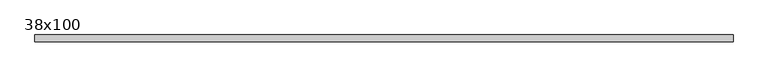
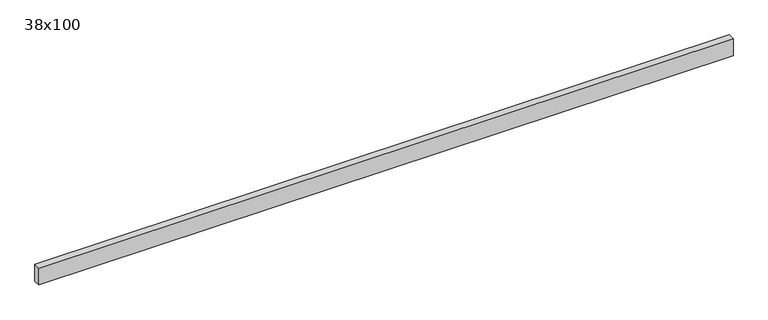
"""IFC4 building model written with IfcOpenShell, lengths in millimetres: beam geometry, Poutre - Bois de construction de dimensions courantes : 38x100."""

import ifcopenshell
import ifcopenshell.guid

model = None  # the IFC model being written
_history = None  # IfcOwnerHistory: only IFC2X3 demands one
_inside = {}  # id of a spatial element -> (the spatial element, [elements in it])
_under = {}  # id of a project, library or spatial element -> (it, [spatial elements below it])
_declared = {}  # id of a project -> (the project, [libraries it declares])
_typed = {}  # id of a type object -> (the type object, [elements of that type])
_made_of = {}  # id of a material, layer set ... -> (it, [elements and type objects made of it])


def new_model(schema):
    """Start an empty IFC model of exactly this schema.

    Asked for "IFC4X3", IfcOpenShell would pick the latest addendum, in which some entities
    have other attributes; the version numbers below select the first issue.
    IFC2X3 requires an IfcOwnerHistory on every rooted entity: one is made here for all.
    """
    global model, _history
    if schema == "IFC4X3":
        model = ifcopenshell.file(schema_version=(4, 3, 0, 0))
    else:
        model = ifcopenshell.file(schema=schema)
    _inside.clear()
    _under.clear()
    _declared.clear()
    _typed.clear()
    _made_of.clear()
    _history = None
    if model.schema == "IFC2X3":
        org = make("IfcOrganization", Name="unknown")
        user = make(
            "IfcPersonAndOrganization",
            ThePerson=make("IfcPerson", FamilyName="unknown"),
            TheOrganization=org,
        )
        app = make(
            "IfcApplication",
            ApplicationDeveloper=org,
            Version="unknown",
            ApplicationFullName="unknown",
            ApplicationIdentifier="unknown",
        )
        _history = make(
            "IfcOwnerHistory",
            OwningUser=user,
            OwningApplication=app,
            ChangeAction="ADDED",
            CreationDate=0,
        )
    return model


def make(cls, **values):
    """One entity of the class cls with the attributes given. An attribute that is None is left unset."""
    return model.create_entity(
        cls, **{name: value for name, value in values.items() if value is not None}
    )


def rooted(cls, **values):
    """An entity with a GlobalId (a new one), such as an element, a storey or a relation."""
    return make(cls, GlobalId=ifcopenshell.guid.new(), OwnerHistory=_history, **values)


def si_unit(unit_type, name, prefix=None):
    """IfcSIUnit, for example si_unit("LENGTHUNIT", "METRE", prefix="MILLI")."""
    return make("IfcSIUnit", UnitType=unit_type, Prefix=prefix, Name=name)


def assignment(units):
    """IfcUnitAssignment: the units of a project."""
    return None if units is None else make("IfcUnitAssignment", Units=units)


def point(xyz):
    """IfcCartesianPoint."""
    return None if xyz is None else make("IfcCartesianPoint", Coordinates=xyz)


def direction(xyz):
    """IfcDirection."""
    return None if xyz is None else make("IfcDirection", DirectionRatios=xyz)


def frame(location, z_axis=None, x_axis=None):
    """IfcAxis2Placement3D, a coordinate frame: its origin and axes. An axis left out is left unset."""
    return make(
        "IfcAxis2Placement3D",
        Location=point(location),
        Axis=direction(z_axis),
        RefDirection=direction(x_axis),
    )


def origin():
    """The frame at (0, 0, 0) with its axes left unset."""
    return frame((0.0, 0.0, 0.0))


def place(relative_to, where):
    """IfcLocalPlacement: puts the frame where relative to a parent placement (None: the world)."""
    return make(
        "IfcLocalPlacement", PlacementRelTo=relative_to, RelativePlacement=where
    )


def context(
    kind, dimensions, precision=None, world=None, true_north=None, identifier=None
):
    """IfcGeometricRepresentationContext, for example the 3D "Model" context."""
    return make(
        "IfcGeometricRepresentationContext",
        ContextIdentifier=identifier,
        ContextType=kind,
        CoordinateSpaceDimension=dimensions,
        Precision=precision,
        WorldCoordinateSystem=world,
        TrueNorth=true_north,
    )


def project(units=None, contexts=None):
    """IfcProject with its units and contexts."""
    return rooted(
        "IfcProject",
        Name="project",
        RepresentationContexts=contexts,
        UnitsInContext=assignment(units),
    )


def spatial(cls, under=None, at=None, **own):
    """A site, building, storey or space (cls), placed at a placement, below another one or the project."""
    s = rooted(cls, ObjectPlacement=at, **own)
    if under is not None:
        _under.setdefault(under.id(), (under, []))[1].append(s)
    return s


def polyline(points):
    """IfcPolyline through the points."""
    return make("IfcPolyline", Points=[point(p) for p in points])


def outline(outer, holes=None, kind="AREA"):
    """IfcArbitraryClosedProfileDef: a profile drawn as a closed curve; with holes, ...WithVoids."""
    if holes is None:
        return make("IfcArbitraryClosedProfileDef", ProfileType=kind, OuterCurve=outer)
    return make(
        "IfcArbitraryProfileDefWithVoids",
        ProfileType=kind,
        OuterCurve=outer,
        InnerCurves=holes,
    )


def extrude(swept, where, along, depth):
    """IfcExtrudedAreaSolid: the profile swept, set in the frame where, extruded along a direction by depth."""
    return make(
        "IfcExtrudedAreaSolid",
        SweptArea=swept,
        Position=where,
        ExtrudedDirection=direction(along),
        Depth=depth,
    )


def shape(context_of_items, identifier, shape_type, items):
    """IfcShapeRepresentation: the items that make up one representation, for example the "Body"."""
    return make(
        "IfcShapeRepresentation",
        ContextOfItems=context_of_items,
        RepresentationIdentifier=identifier,
        RepresentationType=shape_type,
        Items=items,
    )


def source(mapping_origin, context_of_items, identifier, shape_type, items):
    """IfcRepresentationMap: a shape defined once, which mapped items show again and again."""
    return make(
        "IfcRepresentationMap",
        MappingOrigin=mapping_origin,
        MappedRepresentation=shape(context_of_items, identifier, shape_type, items),
    )


def transform(
    local_origin,
    x_axis=None,
    y_axis=None,
    z_axis=None,
    scale=None,
    scale2=None,
    scale3=None,
    uniform=True,
):
    """IfcCartesianTransformationOperator3D, or its non-uniform kind. x_axis, y_axis, z_axis: its Axis1, 2, 3."""
    if uniform:
        return make(
            "IfcCartesianTransformationOperator3D",
            Axis1=direction(x_axis),
            Axis2=direction(y_axis),
            LocalOrigin=point(local_origin),
            Scale=scale,
            Axis3=direction(z_axis),
        )
    return make(
        "IfcCartesianTransformationOperator3DnonUniform",
        Axis1=direction(x_axis),
        Axis2=direction(y_axis),
        LocalOrigin=point(local_origin),
        Scale=scale,
        Axis3=direction(z_axis),
        Scale2=scale2,
        Scale3=scale3,
    )


def mapped(mapping_source, mapping_target):
    """IfcMappedItem: shows the shape of a source again, moved by a transform."""
    return make(
        "IfcMappedItem", MappingSource=mapping_source, MappingTarget=mapping_target
    )


def made_of(thing, what):
    """Note that an element or type object is made of a material, layer set ...; save() writes the relation."""
    if what is not None:
        _made_of.setdefault(what.id(), (what, []))[1].append(thing)
    return thing


def element(
    cls,
    number,
    at=None,
    inside=None,
    cuts=None,
    type_object=None,
    material=None,
    context=None,
    identifier="Body",
    shape_type=None,
    held_by="IfcProductDefinitionShape",
    body=None,
    shapes=None,
    **own,
):
    """One element of the class cls, such as IfcWall. Its Tag is "e" and its number.

    at: its placement. inside: the storey or other place that contains it. cuts: it is an
    opening in that element (IfcRelVoidsElement). A single representation is given by context,
    identifier, shape_type and body (its items); several are given by shapes. held_by: the class
    of the entity that holds the representations. save() writes the other relations.
    """
    e = rooted(cls, Tag="e%d" % number, ObjectPlacement=at, **own)
    if body is not None:
        shapes = [shape(context, identifier, shape_type, body)]
    if shapes is not None:
        e.Representation = make(held_by, Representations=shapes)
    if inside is not None:
        _inside.setdefault(inside.id(), (inside, []))[1].append(e)
    if cuts is not None:
        rooted(
            "IfcRelVoidsElement", RelatingBuildingElement=cuts, RelatedOpeningElement=e
        )
    if type_object is not None:
        _typed.setdefault(type_object.id(), (type_object, []))[1].append(e)
    return made_of(e, material)


def aggregate(whole, parts):
    """IfcRelAggregates: a whole, such as a stair, and the parts it consists of."""
    return rooted("IfcRelAggregates", RelatingObject=whole, RelatedObjects=parts)


def save(model, path):
    """Write the relations noted so far, then the file.

    IfcRelAggregates (storeys below a building ...), IfcRelContainedInSpatialStructure (elements
    in a storey), IfcRelDefinesByType, IfcRelAssociatesMaterial and IfcRelDeclares: one each for
    every whole, place, type object, material and project.
    """
    for whole, parts in _under.values():
        aggregate(whole, parts)
    for where, things in _inside.values():
        rooted(
            "IfcRelContainedInSpatialStructure",
            RelatedElements=things,
            RelatingStructure=where,
        )
    for kind, things in _typed.values():
        rooted("IfcRelDefinesByType", RelatedObjects=things, RelatingType=kind)
    for what, things in _made_of.values():
        rooted("IfcRelAssociatesMaterial", RelatedObjects=things, RelatingMaterial=what)
    for by, libraries in _declared.values():
        rooted("IfcRelDeclares", RelatingContext=by, RelatedDefinitions=libraries)
    model.write(path)


def beam_38x100_18e45ae5(model_context):
    return source(origin(), model_context, "Body", "SweptSolid", [
        extrude(outline(polyline([(1879.0, 19.05), (1879.0, -19.05), (-2039.0, -19.05), (-2039.0, 19.05), (1879.0, 19.05)])), frame((0.0, 0.0, -50.0), z_axis=(0.0, 0.0, 1.0), x_axis=(1.0, 0.0, 0.0)), (0.0, 0.0, 1.0), 100.0),
    ])


if __name__ == "__main__":
    model = new_model("IFC4")
    model_context = context("Model", 3, world=origin())
    ifc_project = project(units=[si_unit("LENGTHUNIT", "METRE", prefix="MILLI")], contexts=[model_context])
    site = spatial("IfcSite", under=ifc_project)
    building = spatial("IfcBuilding", under=site)
    placement = place(None, origin())
    beam_38x100_shape = beam_38x100_18e45ae5(model_context)
    element("IfcBeam", 1, ObjectType="Poutre - Bois de construction de dimensions courantes : 38x100", at=placement, inside=building, context=model_context, shape_type="MappedRepresentation", body=[
        mapped(beam_38x100_shape, transform((0.0, 0.0, 0.0), x_axis=(1.0, 0.0, 0.0), y_axis=(0.0, 1.0, 0.0), z_axis=(0.0, 0.0, 1.0))),
    ])
    save(model, "model.ifc")
